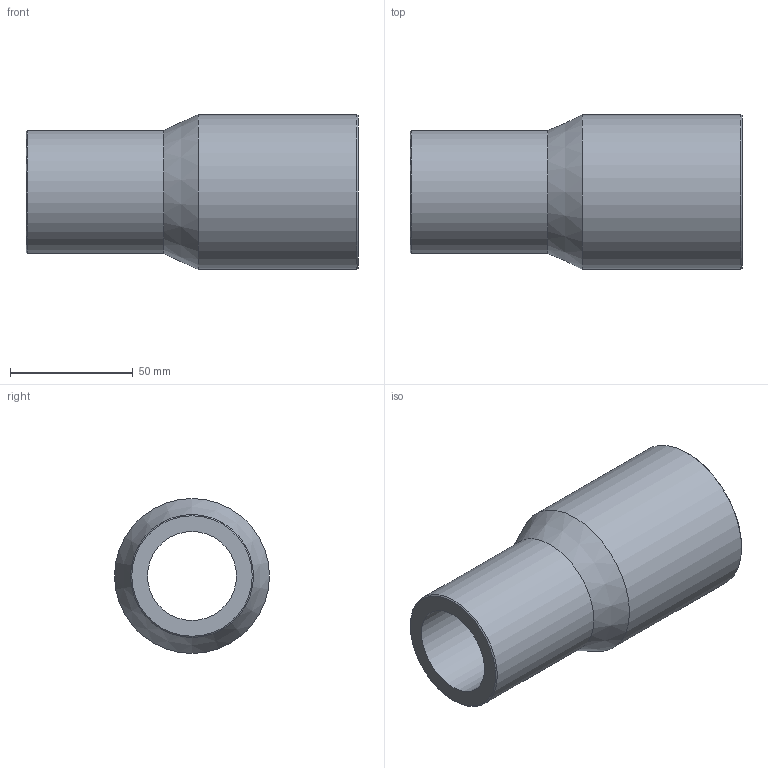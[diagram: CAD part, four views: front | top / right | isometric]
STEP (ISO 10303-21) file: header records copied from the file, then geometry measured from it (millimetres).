
FILE_DESCRIPTION(/* description */ ('Unknown'),/* implementation_level */ '2;1');
FILE_NAME(/* name */ 'RP063050H',/* time_stamp */ '2021-09-16T11:28:56+02:00',/* author */ ('Unknown'),/* organization */ ('Unknown'),/* preprocessor_version */ 'ST-DEVELOPER v16.7',/* originating_system */ 'Solid Edge',/* authorisation */ 'Unknown');
FILE_SCHEMA (('AUTOMOTIVE_DESIGN {1 0 10303 214 3 1 1}'));
Length unit declared in the file: millimetre
Products named in the file (1): RP063050H
Bounding box: 135 x 63 x 63 mm (x, y, z)
Volume: 167018.8 mm3; surface area: 44185.3 mm2
Topology: 1 solids, 1 shells, 10 faces, 19 edges, 11 vertices
Faces by surface type: cylinder 4, cone 4, plane 2
Full cylindrical faces by diameter (mm): 36.2 x1, 45.8 x1, 50 x1, 63 x1
Entity records: 238 total; most frequent: DIRECTION 42, CARTESIAN_POINT 31, AXIS2_PLACEMENT_3D 21, ORIENTED_EDGE 20, EDGE_LOOP 20, FACE_BOUND 20, EDGE_CURVE 10, VERTEX_POINT 10
